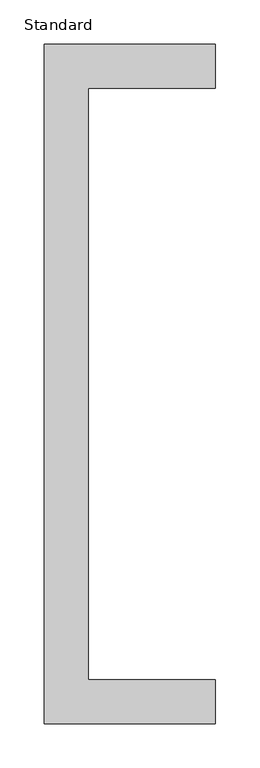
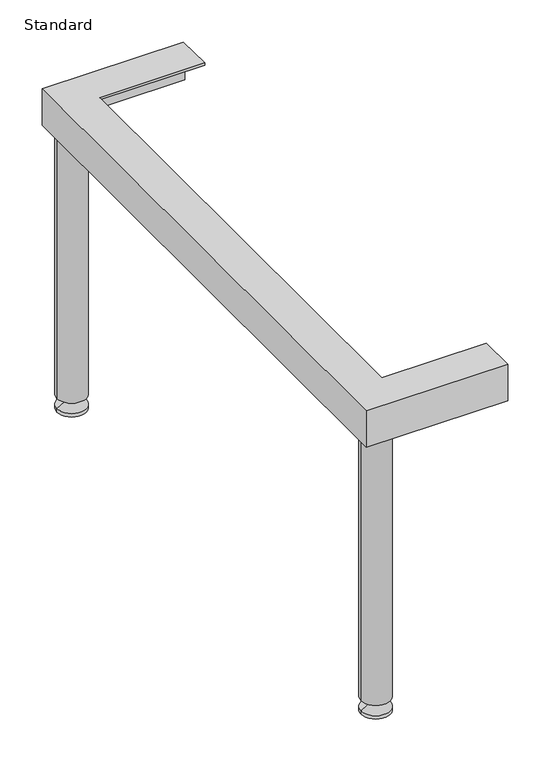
"""IFC4 building model written with IfcOpenShell, lengths in millimetres: furniture geometry, X_Bench-Foot-Duracube-Player Wall Assembly : Standard."""

from ifc_helpers import new_model, si_unit, point, frame, frame_2d, origin, place, context, project, spatial, polyline, circle_curve, trimmed, segment, composite_curve, outline, extrude, faceted_brep, source, transform, mapped, element, save
from ifc_brep_helpers import plane_surface, cylinder_surface, revolved_surface, advanced_brep


def standard_a503a910(model_context):
    return source(origin(), model_context, "Body", "SolidModel", [
        advanced_brep(
        [(44.9503264, 23.75, 20.0), (40.9503264, 23.75, 20.0), (36.9503264, 23.75, 20.0), (44.9503264, 23.75, 15.0), (36.9503264, 23.75, 15.0), (60.9503264, 23.75, 5.0), (20.9503264, 23.75, 5.0), (60.9503264, 23.75, 0.0), (20.9503264, 23.75, 0.0), (40.9503264, 23.75, 0.0)],
        [
            (0, 1),
            (1, 2),
            (2, 0, circle_curve(frame((40.9503264, 23.75, 20.0), z_axis=(0.0, 0.0, 1.0), x_axis=(-1.0, 0.0, 0.0)), 4.0)),
            (0, 2, circle_curve(frame((40.9503264, 23.75, 20.0), z_axis=(0.0, 0.0, 1.0), x_axis=(-1.0, 0.0, 0.0)), 4.0)),
            (3, 0),
            (2, 4),
            (4, 3, circle_curve(frame((40.9503264, 23.75, 15.0), z_axis=(0.0, 0.0, 1.0), x_axis=(-1.0, 0.0, 0.0)), 4.0)),
            (3, 4, circle_curve(frame((40.9503264, 23.75, 15.0), z_axis=(0.0, 0.0, 1.0), x_axis=(-1.0, 0.0, 0.0)), 4.0)),
            (5, 3),
            (4, 6),
            (6, 5, circle_curve(frame((40.9503264, 23.75, 5.0), z_axis=(0.0, 0.0, 1.0), x_axis=(-1.0, 0.0, 0.0)), 20.0)),
            (5, 6, circle_curve(frame((40.9503264, 23.75, 5.0), z_axis=(0.0, 0.0, 1.0), x_axis=(-1.0, 0.0, 0.0)), 20.0)),
            (7, 5),
            (6, 8),
            (8, 7, circle_curve(frame((40.9503264, 23.75, 0.0), z_axis=(0.0, 0.0, 1.0), x_axis=(-1.0, 0.0, 0.0)), 20.0)),
            (7, 8, circle_curve(frame((40.9503264, 23.75, 0.0), z_axis=(0.0, 0.0, 1.0), x_axis=(-1.0, 0.0, 0.0)), 20.0)),
            (9, 7),
            (8, 9),
        ],
        [
            plane_surface(frame((40.9503264, 23.75, 20.0), z_axis=(0.0, 0.0, 1.0), x_axis=(-1.0, 0.0, 0.0))),
            cylinder_surface(frame((40.9503264, 23.75, 0.0), z_axis=(0.0, 0.0, -1.0), x_axis=(-1.0, 0.0, 0.0)), 4.0),
            revolved_surface(polyline([(36.9503264, 23.75, 15.0), (20.9503264, 23.75, 5.0)]), (40.9503264, 23.75, 0.0), (0.0, 0.0, -1.0)),
            cylinder_surface(frame((40.9503264, 23.75, 0.0), z_axis=(0.0, 0.0, -1.0), x_axis=(-1.0, 0.0, 0.0)), 20.0),
            plane_surface(frame((40.9503264, 23.75, 0.0), z_axis=(0.0, 0.0, -1.0), x_axis=(-1.0, 0.0, 0.0))),
        ],
        [
            (0, [[1, 2, 3]]),
            (0, [[-2, -1, 4]]),
            (1, [[5, -3, 6, 7]]),
            (1, [[-6, -4, -5, 8]]),
            (2, [[9, -7, 10, 11]]),
            (2, [[-10, -8, -9, 12]]),
            (3, [[13, -11, 14, 15]]),
            (3, [[-14, -12, -13, 16]]),
            (4, [[17, -15, 18]]),
            (4, [[-18, -16, -17]]),
        ],
    ),
        advanced_brep(
        [(44.9503264, 746.25, 20.0), (40.9503264, 746.25, 20.0), (36.9503264, 746.25, 20.0), (44.9503264, 746.25, 15.0), (36.9503264, 746.25, 15.0), (60.9503264, 746.25, 5.0), (20.9503264, 746.25, 5.0), (60.9503264, 746.25, 0.0), (20.9503264, 746.25, 0.0), (40.9503264, 746.25, 0.0)],
        [
            (0, 1),
            (1, 2),
            (2, 0, circle_curve(frame((40.9503264, 746.25, 20.0), z_axis=(0.0, 0.0, 1.0), x_axis=(-1.0, 0.0, 0.0)), 4.0)),
            (0, 2, circle_curve(frame((40.9503264, 746.25, 20.0), z_axis=(0.0, 0.0, 1.0), x_axis=(-1.0, 0.0, 0.0)), 4.0)),
            (3, 0),
            (2, 4),
            (4, 3, circle_curve(frame((40.9503264, 746.25, 15.0), z_axis=(0.0, 0.0, 1.0), x_axis=(-1.0, 0.0, 0.0)), 4.0)),
            (3, 4, circle_curve(frame((40.9503264, 746.25, 15.0), z_axis=(0.0, 0.0, 1.0), x_axis=(-1.0, 0.0, 0.0)), 4.0)),
            (5, 3),
            (4, 6),
            (6, 5, circle_curve(frame((40.9503264, 746.25, 5.0), z_axis=(0.0, 0.0, 1.0), x_axis=(-1.0, 0.0, 0.0)), 20.0)),
            (5, 6, circle_curve(frame((40.9503264, 746.25, 5.0), z_axis=(0.0, 0.0, 1.0), x_axis=(-1.0, 0.0, 0.0)), 20.0)),
            (7, 5),
            (6, 8),
            (8, 7, circle_curve(frame((40.9503264, 746.25, 0.0), z_axis=(0.0, 0.0, 1.0), x_axis=(-1.0, 0.0, 0.0)), 20.0)),
            (7, 8, circle_curve(frame((40.9503264, 746.25, 0.0), z_axis=(0.0, 0.0, 1.0), x_axis=(-1.0, 0.0, 0.0)), 20.0)),
            (9, 7),
            (8, 9),
        ],
        [
            plane_surface(frame((40.9503264, 746.25, 20.0), z_axis=(0.0, 0.0, 1.0), x_axis=(-1.0, 0.0, 0.0))),
            cylinder_surface(frame((40.9503264, 746.25, 0.0), z_axis=(0.0, 0.0, -1.0), x_axis=(-1.0, 0.0, 0.0)), 4.0),
            revolved_surface(polyline([(36.9503264, 746.25, 15.0), (20.9503264, 746.25, 5.0)]), (40.9503264, 746.25, 0.0), (0.0, 0.0, -1.0)),
            cylinder_surface(frame((40.9503264, 746.25, 0.0), z_axis=(0.0, 0.0, -1.0), x_axis=(-1.0, 0.0, 0.0)), 20.0),
            plane_surface(frame((40.9503264, 746.25, 0.0), z_axis=(0.0, 0.0, -1.0), x_axis=(-1.0, 0.0, 0.0))),
        ],
        [
            (0, [[1, 2, 3]]),
            (0, [[-2, -1, 4]]),
            (1, [[5, -3, 6, 7]]),
            (1, [[-6, -4, -5, 8]]),
            (2, [[9, -7, 10, 11]]),
            (2, [[-10, -8, -9, 12]]),
            (3, [[13, -11, 14, 15]]),
            (3, [[-14, -12, -13, 16]]),
            (4, [[17, -15, 18]]),
            (4, [[-18, -16, -17]]),
        ],
    ),
        extrude(outline(composite_curve([segment(trimmed(circle_curve(frame_2d((40.9503264, 23.75)), 20.0), [point((20.9503264, 23.75))], [point((60.9503264, 23.75))], False, "CARTESIAN"), True, "CONTINUOUS"), segment(trimmed(circle_curve(frame_2d((40.9503264, 23.75)), 20.0), [point((60.9503264, 23.75))], [point((20.9503264, 23.75))], False, "CARTESIAN"), True, "CONTINUOUS")], self_intersect=False)), frame((0.0, 0.0, 20.0), z_axis=(0.0, 0.0, 1.0), x_axis=(1.0, 0.0, 0.0)), (0.0, 0.0, 1.0), 434.0),
        extrude(outline(composite_curve([segment(trimmed(circle_curve(frame_2d((40.9503264, 746.25)), 20.0), [point((20.9503264, 746.25))], [point((60.9503264, 746.25))], False, "CARTESIAN"), True, "CONTINUOUS"), segment(trimmed(circle_curve(frame_2d((40.9503264, 746.25)), 20.0), [point((60.9503264, 746.25))], [point((20.9503264, 746.25))], False, "CARTESIAN"), True, "CONTINUOUS")], self_intersect=False)), frame((0.0, 0.0, 20.0), z_axis=(0.0, 0.0, 1.0), x_axis=(1.0, 0.0, 0.0)), (0.0, 0.0, 1.0), 434.0),
        faceted_brep([(208.2003264, 770.0, 404.0), (208.2003264, 770.0, 457.0), (208.2003264, 720.0, 457.0), (208.2003264, 720.0, 454.0), (208.2003264, 767.0, 454.0), (208.2003264, 767.0, 404.0), (17.2003264, 767.0, 404.0), (17.2003264, 3.0, 404.0), (208.2003264, 3.0, 404.0), (208.2003264, 0.0, 404.0), (14.2003264, 0.0, 404.0), (14.2003264, 770.0, 404.0), (17.2003264, 767.0, 454.0), (64.2003264, 720.0, 454.0), (64.2003264, 50.0, 454.0), (208.2003264, 50.0, 454.0), (208.2003264, 3.0, 454.0), (17.2003264, 3.0, 454.0), (64.2003264, 720.0, 457.0), (14.2003264, 770.0, 457.0), (14.2003264, 0.0, 457.0), (208.2003264, 0.0, 457.0), (208.2003264, 50.0, 457.0), (64.2003264, 50.0, 457.0)], [[[0, 1, 2, 3, 4, 5]], [[5, 6, 7, 8, 9, 10, 11, 0]], [[4, 12, 6, 5]], [[3, 13, 14, 15, 16, 17, 12, 4]], [[2, 18, 13, 3]], [[1, 19, 20, 21, 22, 23, 18, 2]], [[0, 11, 19, 1]], [[11, 10, 20, 19]], [[10, 9, 21, 20]], [[9, 8, 16, 15, 22, 21]], [[17, 16, 8, 7]], [[12, 17, 7, 6]], [[23, 22, 15, 14]], [[18, 23, 14, 13]]]),
    ])


if __name__ == "__main__":
    model = new_model("IFC4")
    model_context = context("Model", 3, world=origin())
    ifc_project = project(units=[si_unit("LENGTHUNIT", "METRE", prefix="MILLI")], contexts=[model_context])
    site = spatial("IfcSite", under=ifc_project)
    building = spatial("IfcBuilding", under=site)
    placement = place(None, origin())
    standard_shape = standard_a503a910(model_context)
    element("IfcFurniture", 1, ObjectType="X_Bench-Foot-Duracube-Player Wall Assembly : Standard", at=placement, inside=building, context=model_context, shape_type="MappedRepresentation", body=[
        mapped(standard_shape, transform((0.0, 0.0, 0.0), x_axis=(1.0, 0.0, 0.0), y_axis=(0.0, 1.0, 0.0), z_axis=(0.0, 0.0, 1.0))),
    ])
    save(model, "model.ifc")
